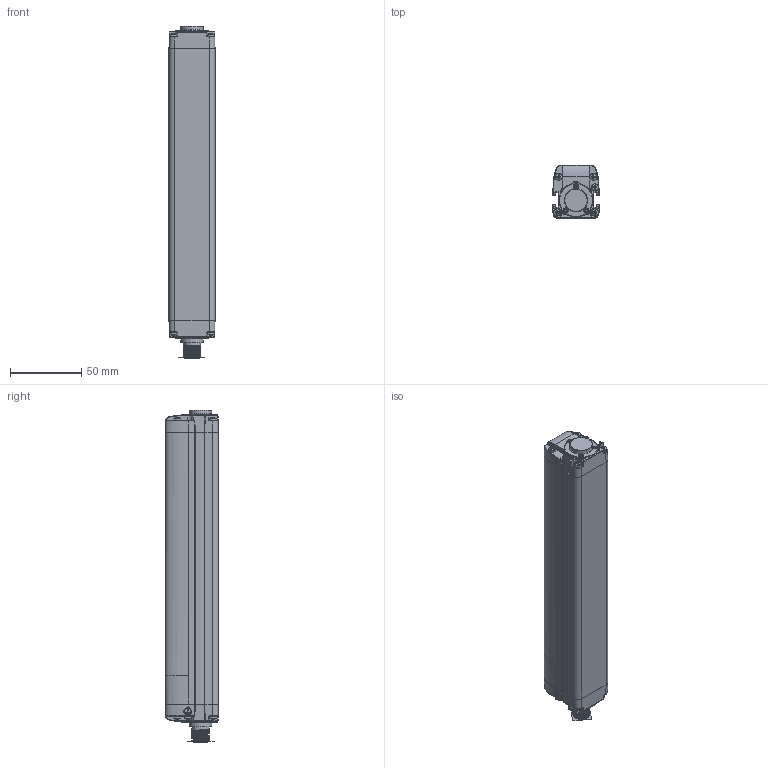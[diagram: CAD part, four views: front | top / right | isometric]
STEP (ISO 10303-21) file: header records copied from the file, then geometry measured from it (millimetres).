
FILE_DESCRIPTION(/* description */ (''),/* implementation_level */ '2;1');
FILE_NAME(/* name */ 'DSD-0169.stp',/* time_stamp */ '2020-07-16T12:28:02+02:00',/* author */ (''),/* organization */ (''),/* preprocessor_version */ 'ST-DEVELOPER v16.7',/* originating_system */ 'SIEMENS PLM Software NX 12.0',/* authorisation */ '');
FILE_SCHEMA (('AUTOMOTIVE_DESIGN { 1 0 10303 214 3 1 1 1 }'));
Products named in the file (1): AP025821_00_1-DSD-0169
Bounding box: 32.3 x 36.9 x 232.94 mm (x, y, z)
Volume: 197695.9 mm3; surface area: 59042.3 mm2
Topology: 11 solids, 813 shells, 1659 faces, 5249 edges, 4147 vertices
Faces by surface type: cylinder 613, bspline 570, plane 384, sphere 49, cone 35, torus 8
Full cylindrical faces by diameter (mm): 0.8 x16, 1.5 x6, 2 x6, 2.05 x4, 2.5 x12, 2.7 x10, 2.9 x6, 3 x12, 3.4 x6, 3.6 x12, 4.7 x2, 5 x10, 5.3 x2, 7.5 x1, 8 x1, 8.3 x1, 9.3 x1, 9.5 x1, 9.55 x1, 10.5 x1, 11 x2, 12 x12, 13.97 x1, 14.3 x1, 16 x2
Entity records: 86670 total; most frequent: CARTESIAN_POINT 37188, ORIENTED_EDGE 6857, DIRECTION 6095, EDGE_CURVE 4962, VERTEX_POINT 4137, AXIS2_PLACEMENT_3D 2402, EDGE_LOOP 1965, PRESENTATION_STYLE_ASSIGNMENT 1660
